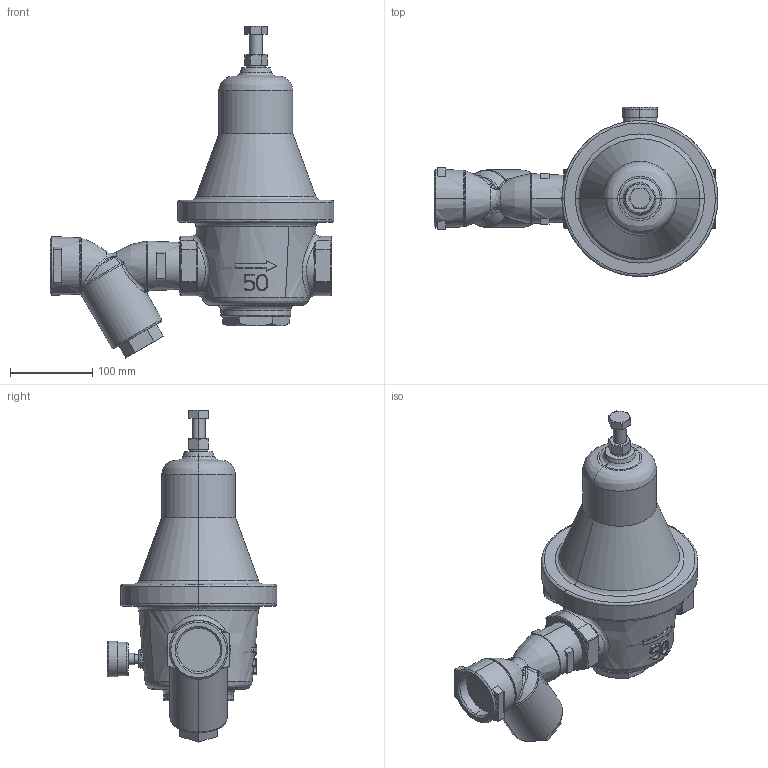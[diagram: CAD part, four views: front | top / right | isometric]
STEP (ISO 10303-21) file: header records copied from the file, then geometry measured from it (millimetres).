
FILE_DESCRIPTION( (''), '2;1');
FILE_NAME ('PC1276.1724.GD-24GS 50A_17355.stp','2025-12-10T13:19:24',(''),(''),'spGate 20.6.3 (****-****-****-****)','','');
FILE_SCHEMA (('AUTOMOTIVE_DESIGN'));
Length unit declared in the file: millimetre
Products named in the file (3): Assembly; GD-24　50A; キャップ
Assembly tree (2 placements, depth 2):
  Assembly
    GD-24　50A
    キャップ
Bounding box: 345.5 x 206.03 x 404 mm (x, y, z)
Volume: 4724393.5 mm3; surface area: 238940.2 mm2
Topology: 2 solids, 2 shells, 490 faces, 1191 edges, 694 vertices
Faces by surface type: bspline 195, cylinder 142, plane 115, sphere 38
Entity records: 30884 total; most frequent: CARTESIAN_POINT 11528, ORIENTED_EDGE 2306, DIRECTION 1814, COLOUR_RGB 1645, PRESENTATION_STYLE_ASSIGNMENT 1645, STYLED_ITEM 1645, EDGE_CURVE 1153, DRAUGHTING_PRE_DEFINED_CURVE_FONT 1153
